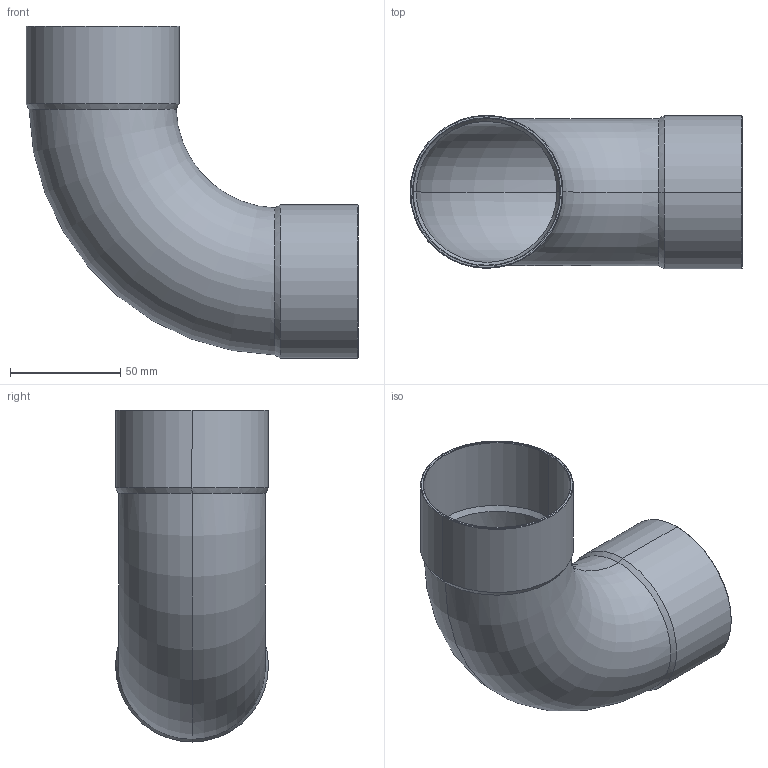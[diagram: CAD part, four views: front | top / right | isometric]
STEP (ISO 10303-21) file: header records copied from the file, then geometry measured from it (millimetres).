
FILE_DESCRIPTION((''),'2;1');
FILE_NAME('D:\5002\15002a67.stp','2005-10-04T11:55:51',('Kris'),(''),'Autodesk Inventor 8','Autodesk Inventor 8','');
FILE_SCHEMA(('AUTOMOTIVE_DESIGN { 1 0 10303 214 1 1 1 1 }'));
Length unit declared in the file: millimetre
Products named in the file (1): 15002a67
Bounding box: 150.75 x 69.5 x 150.75 mm (x, y, z)
Volume: 57841.2 mm3; surface area: 83133.4 mm2
Topology: 1 solids, 1 shells, 30 faces, 60 edges, 32 vertices
Faces by surface type: cone 12, bspline 9, torus 4, cylinder 4, plane 1
Entity records: 1035 total; most frequent: CARTESIAN_POINT 422, DIRECTION 124, ORIENTED_EDGE 120, EDGE_CURVE 60, AXIS2_PLACEMENT_3D 50, VERTEX_POINT 32, EDGE_LOOP 32, FACE_OUTER_BOUND 30
